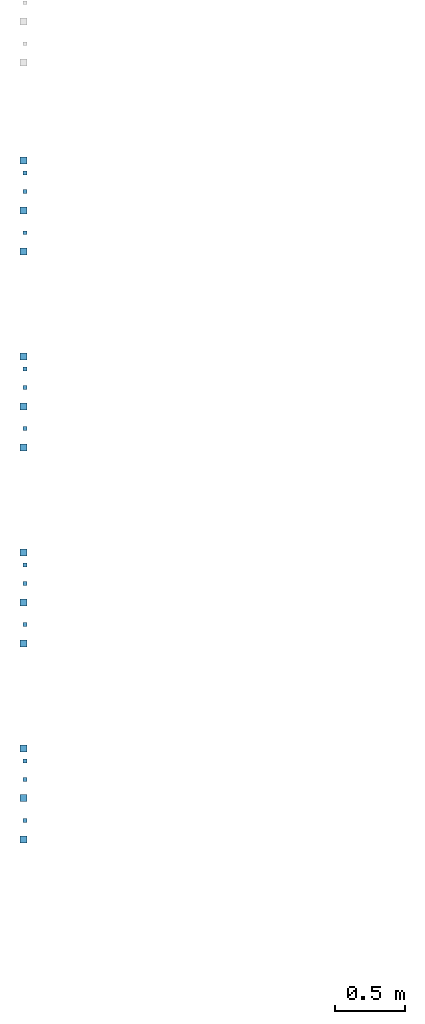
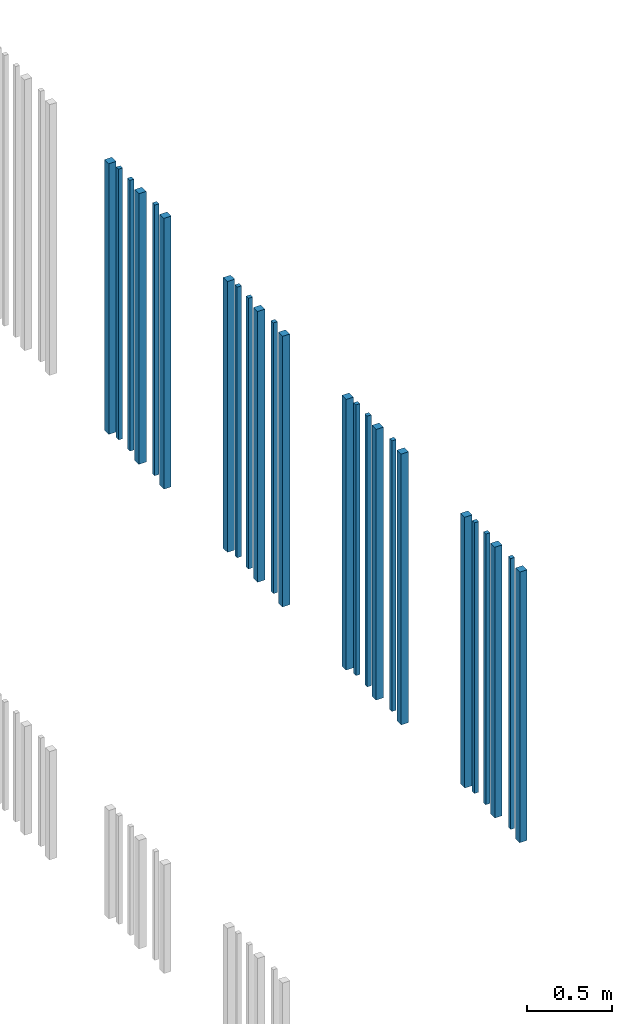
# One storey, part 20 of 124: 24 walls.
"""IFC2X3 building model written with IfcOpenShell, lengths in millimetres."""

from ifc_helpers import new_model, entity, si_unit, converted_unit, derived_unit, money_unit, direction, frame, origin_with_axes, place, context, subcontext, project, spatial, faceted_brep, material, type_object, element, save


model = new_model("IFC2X3")

# Units and contexts
model_context = context("Model", 3, precision=1e-05, world=origin_with_axes(), true_north=direction((0.0, 1.0)))
body_context = subcontext(model_context, "Body", "Model", "MODEL_VIEW")
ifc_project = project(units=[si_unit("LENGTHUNIT", "METRE", prefix="MILLI"), si_unit("AREAUNIT", "SQUARE_METRE"), si_unit("VOLUMEUNIT", "CUBIC_METRE"), converted_unit("PLANEANGLEUNIT", "DEGREE", entity("IfcPlaneAngleMeasure", 0.0174532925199), si_unit("PLANEANGLEUNIT", "RADIAN"), dimensions=[0, 0, 0, 0, 0, 0, 0]), si_unit("SOLIDANGLEUNIT", "STERADIAN"), money_unit("EUR"), converted_unit("TIMEUNIT", "Year", entity("IfcTimeMeasure", 31556926.0), si_unit("TIMEUNIT", "SECOND"), dimensions=[0, 0, 1, 0, 0, 0, 0]), si_unit("MASSUNIT", "GRAM", prefix="KILO"), si_unit("THERMODYNAMICTEMPERATUREUNIT", "DEGREE_CELSIUS"), si_unit("LUMINOUSINTENSITYUNIT", "LUMEN"), si_unit("ENERGYUNIT", "JOULE", prefix="MEGA"), derived_unit("THERMALCONDUCTANCEUNIT", [(si_unit("POWERUNIT", "WATT"), 1), (si_unit("LENGTHUNIT", "METRE"), -1), (si_unit("THERMODYNAMICTEMPERATUREUNIT", "KELVIN"), -1)]), derived_unit("SPECIFICHEATCAPACITYUNIT", [(si_unit("ENERGYUNIT", "JOULE"), 1), (si_unit("MASSUNIT", "GRAM", prefix="KILO"), -1), (si_unit("THERMODYNAMICTEMPERATUREUNIT", "KELVIN"), -1)]), derived_unit("MASSDENSITYUNIT", [(si_unit("MASSUNIT", "GRAM", prefix="KILO"), 1), (si_unit("VOLUMEUNIT", "CUBIC_METRE"), -1)])], contexts=[model_context])

# Site, building, storey
site_placement = place(None, origin_with_axes())
site = spatial("IfcSite", under=ifc_project, at=site_placement, Name="Site", CompositionType="ELEMENT")
building_placement = place(site_placement, origin_with_axes())
building = spatial("IfcBuilding", under=site, at=building_placement, Name="Building", CompositionType="ELEMENT")
storey_placement = place(building_placement, frame((0.0, 0.0, -1615.0), z_axis=(0.0, 0.0, 1.0), x_axis=(1.0, 0.0, 0.0)))
storey = spatial("IfcBuildingStorey", under=building, at=storey_placement, Name="0  korrus", CompositionType="ELEMENT", Elevation=-1615.0)

# Walls
ifc_material = material(Name="Site specified")
wall_type = type_object("IfcWallType", Name="Puitfassaadi ribistik", PredefinedType="NOTDEFINED")
for number, where, z_axis, x_axis, name in (
    (1, (122387.999965, 59365.0238283, 9530.0), (0.0, 0.0, 1.0), (-5.16795809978e-08, 1.0, 0.0), "Site specified"),
    (2, (122387.999984, 59009.018195, 9530.0), (0.0, 0.0, 1.0), (-5.16795809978e-08, 1.0, 0.0), "Site specified"),
):
    element("IfcWall", number, at=place(storey_placement, frame(where, z_axis=z_axis, x_axis=x_axis)), inside=storey, type_object=wall_type, material=ifc_material, Name=name, context=body_context, shape_type="Brep", body=[
        faceted_brep([(25.0, 25.0, 1950.0), (25.0, 25.0, 0.0), (-25.0, 25.0, 0.0), (-25.0, 25.0, 1950.0), (25.0, -25.0, 1950.0), (25.0, -25.0, 0.0), (-25.0, -25.0, 0.0), (-25.0, -25.0, 1950.0)], [[[0, 1, 2, 3]], [[4, 5, 1, 0]], [[2, 1, 5, 6]], [[3, 2, 6, 7]], [[4, 0, 3, 7]], [[7, 6, 5, 4]]]),
    ])
wall_1_placement = place(storey_placement, frame((122398.99997, 59276.0206584, 9530.0), z_axis=(0.0, 0.0, 1.0), x_axis=(-5.16795809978e-08, 1.0, 0.0)))
element("IfcWall", 3, at=wall_1_placement, inside=storey, type_object=wall_type, material=ifc_material, Name="Site specified", context=body_context, shape_type="Brep", body=[
    faceted_brep([(14.0, 14.0, 1950.0), (14.0, 14.0, 0.0), (-14.0, 14.0, 0.0), (-14.0, 14.0, 1950.0), (14.0, -14.0, 1950.0), (14.0, -14.0, 0.0), (-14.0, -14.0, 0.0), (-14.0, -14.0, 1950.0)], [[[0, 1, 2, 3]], [[4, 5, 1, 0]], [[2, 1, 5, 6]], [[3, 2, 6, 7]], [[4, 0, 3, 7]], [[7, 6, 5, 4]]]),
])
wall_2_placement = place(storey_placement, frame((122387.999999, 58715.0181971, 9530.0), z_axis=(0.0, 0.0, 1.0), x_axis=(-5.16795809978e-08, 1.0, 0.0)))
element("IfcWall", 4, at=wall_2_placement, inside=storey, type_object=wall_type, material=ifc_material, Name="Site specified", context=body_context, shape_type="Brep", body=[
    faceted_brep([(25.0, 25.0, 1950.0), (25.0, 25.0, 0.0), (-25.0, 25.0, 0.0), (-25.0, 25.0, 1950.0), (25.0, -25.0, 1950.0), (25.0, -25.0, 0.0), (-25.0, -25.0, 0.0), (-25.0, -25.0, 1950.0)], [[[0, 1, 2, 3]], [[4, 5, 1, 0]], [[2, 1, 5, 6]], [[3, 2, 6, 7]], [[4, 0, 3, 7]], [[7, 6, 5, 4]]]),
])
for number, where, z_axis, x_axis, name in (
    (5, (122398.999977, 59143.0206593, 9530.0), (0.0, 0.0, 1.0), (-5.16795809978e-08, 1.0, 0.0), "Site specified"),
    (6, (122398.999992, 58850.0206882, 9530.0), (0.0, 0.0, 1.0), (-5.16795809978e-08, 1.0, 0.0), "Site specified"),
):
    element("IfcWall", number, at=place(storey_placement, frame(where, z_axis=z_axis, x_axis=x_axis)), inside=storey, type_object=wall_type, material=ifc_material, Name=name, context=body_context, shape_type="Brep", body=[
        faceted_brep([(14.0, 14.0, 1950.0), (14.0, 14.0, 0.0), (-14.0, 14.0, 0.0), (-14.0, 14.0, 1950.0), (14.0, -14.0, 1950.0), (14.0, -14.0, 0.0), (-14.0, -14.0, 0.0), (-14.0, -14.0, 1950.0)], [[[0, 1, 2, 3]], [[4, 5, 1, 0]], [[2, 1, 5, 6]], [[3, 2, 6, 7]], [[4, 0, 3, 7]], [[7, 6, 5, 4]]]),
    ])
for number, where, z_axis, x_axis, name in (
    (7, (122387.999966, 57965.0238283, 9530.0), (0.0, 0.0, 1.0), (-5.16795809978e-08, 1.0, 0.0), "Site specified"),
    (8, (122387.999984, 57609.018195, 9530.0), (0.0, 0.0, 1.0), (-5.16795809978e-08, 1.0, 0.0), "Site specified"),
):
    element("IfcWall", number, at=place(storey_placement, frame(where, z_axis=z_axis, x_axis=x_axis)), inside=storey, type_object=wall_type, material=ifc_material, Name=name, context=body_context, shape_type="Brep", body=[
        faceted_brep([(25.0, 25.0, 1950.0), (25.0, 25.0, 0.0), (-25.0, 25.0, 0.0), (-25.0, 25.0, 1950.0), (25.0, -25.0, 1950.0), (25.0, -25.0, 0.0), (-25.0, -25.0, 0.0), (-25.0, -25.0, 1950.0)], [[[0, 1, 2, 3]], [[4, 5, 1, 0]], [[2, 1, 5, 6]], [[3, 2, 6, 7]], [[4, 0, 3, 7]], [[7, 6, 5, 4]]]),
    ])
wall_3_placement = place(storey_placement, frame((122398.999977, 57743.0206593, 9530.0), z_axis=(0.0, 0.0, 1.0), x_axis=(-5.16795809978e-08, 1.0, 0.0)))
element("IfcWall", 9, at=wall_3_placement, inside=storey, type_object=wall_type, material=ifc_material, Name="Site specified", context=body_context, shape_type="Brep", body=[
    faceted_brep([(14.0, 14.0, 1950.0), (14.0, 14.0, 0.0), (-14.0, 14.0, 0.0), (-14.0, 14.0, 1950.0), (14.0, -14.0, 1950.0), (14.0, -14.0, 0.0), (-14.0, -14.0, 0.0), (-14.0, -14.0, 1950.0)], [[[0, 1, 2, 3]], [[4, 5, 1, 0]], [[2, 1, 5, 6]], [[3, 2, 6, 7]], [[4, 0, 3, 7]], [[7, 6, 5, 4]]]),
])
wall_4_placement = place(storey_placement, frame((122387.999999, 57315.0181971, 9530.0), z_axis=(0.0, 0.0, 1.0), x_axis=(-5.16795809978e-08, 1.0, 0.0)))
element("IfcWall", 10, at=wall_4_placement, inside=storey, type_object=wall_type, material=ifc_material, Name="Site specified", context=body_context, shape_type="Brep", body=[
    faceted_brep([(25.0, 25.0, 1950.0), (25.0, 25.0, 0.0), (-25.0, 25.0, 0.0), (-25.0, 25.0, 1950.0), (25.0, -25.0, 1950.0), (25.0, -25.0, 0.0), (-25.0, -25.0, 0.0), (-25.0, -25.0, 1950.0)], [[[0, 1, 2, 3]], [[4, 5, 1, 0]], [[2, 1, 5, 6]], [[3, 2, 6, 7]], [[4, 0, 3, 7]], [[7, 6, 5, 4]]]),
])
for number, where, z_axis, x_axis, name in (
    (11, (122398.999992, 57450.0206882, 9530.0), (0.0, 0.0, 1.0), (-5.16795809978e-08, 1.0, 0.0), "Site specified"),
    (12, (122398.99997, 57876.0206584, 9530.0), (0.0, 0.0, 1.0), (-5.16795809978e-08, 1.0, 0.0), "Site specified"),
):
    element("IfcWall", number, at=place(storey_placement, frame(where, z_axis=z_axis, x_axis=x_axis)), inside=storey, type_object=wall_type, material=ifc_material, Name=name, context=body_context, shape_type="Brep", body=[
        faceted_brep([(14.0, 14.0, 1950.0), (14.0, 14.0, 0.0), (-14.0, 14.0, 0.0), (-14.0, 14.0, 1950.0), (14.0, -14.0, 1950.0), (14.0, -14.0, 0.0), (-14.0, -14.0, 0.0), (-14.0, -14.0, 1950.0)], [[[0, 1, 2, 3]], [[4, 5, 1, 0]], [[2, 1, 5, 6]], [[3, 2, 6, 7]], [[4, 0, 3, 7]], [[7, 6, 5, 4]]]),
    ])
wall_5_placement = place(storey_placement, frame((122387.999999, 60115.0181971, 9530.0), z_axis=(0.0, 0.0, 1.0), x_axis=(-5.16795809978e-08, 1.0, 0.0)))
element("IfcWall", 13, at=wall_5_placement, inside=storey, type_object=wall_type, material=ifc_material, Name="Site specified", context=body_context, shape_type="Brep", body=[
    faceted_brep([(25.0, 25.0, 1950.0), (25.0, 25.0, 0.0), (-25.0, 25.0, 0.0), (-25.0, 25.0, 1950.0), (25.0, -25.0, 1950.0), (25.0, -25.0, 0.0), (-25.0, -25.0, 0.0), (-25.0, -25.0, 1950.0)], [[[0, 1, 2, 3]], [[4, 5, 1, 0]], [[2, 1, 5, 6]], [[3, 2, 6, 7]], [[4, 0, 3, 7]], [[7, 6, 5, 4]]]),
])
for number, where, z_axis, x_axis, name in (
    (14, (122398.999992, 60250.0206882, 9530.0), (0.0, 0.0, 1.0), (-5.16795809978e-08, 1.0, 0.0), "Site specified"),
    (15, (122398.99997, 60676.0206584, 9530.0), (0.0, 0.0, 1.0), (-5.16795809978e-08, 1.0, 0.0), "Site specified"),
):
    element("IfcWall", number, at=place(storey_placement, frame(where, z_axis=z_axis, x_axis=x_axis)), inside=storey, type_object=wall_type, material=ifc_material, Name=name, context=body_context, shape_type="Brep", body=[
        faceted_brep([(14.0, 14.0, 1950.0), (14.0, 14.0, 0.0), (-14.0, 14.0, 0.0), (-14.0, 14.0, 1950.0), (14.0, -14.0, 1950.0), (14.0, -14.0, 0.0), (-14.0, -14.0, 0.0), (-14.0, -14.0, 1950.0)], [[[0, 1, 2, 3]], [[4, 5, 1, 0]], [[2, 1, 5, 6]], [[3, 2, 6, 7]], [[4, 0, 3, 7]], [[7, 6, 5, 4]]]),
    ])
wall_6_placement = place(storey_placement, frame((122387.999965, 60765.0238283, 9530.0), z_axis=(0.0, 0.0, 1.0), x_axis=(-5.16795809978e-08, 1.0, 0.0)))
element("IfcWall", 16, at=wall_6_placement, inside=storey, type_object=wall_type, material=ifc_material, Name="Site specified", context=body_context, shape_type="Brep", body=[
    faceted_brep([(25.0, 25.0, 1950.0), (25.0, 25.0, 0.0), (-25.0, 25.0, 0.0), (-25.0, 25.0, 1950.0), (25.0, -25.0, 1950.0), (25.0, -25.0, 0.0), (-25.0, -25.0, 0.0), (-25.0, -25.0, 1950.0)], [[[0, 1, 2, 3]], [[4, 5, 1, 0]], [[2, 1, 5, 6]], [[3, 2, 6, 7]], [[4, 0, 3, 7]], [[7, 6, 5, 4]]]),
])
wall_7_placement = place(storey_placement, frame((122398.999977, 60543.0206593, 9530.0), z_axis=(0.0, 0.0, 1.0), x_axis=(-5.16795809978e-08, 1.0, 0.0)))
element("IfcWall", 17, at=wall_7_placement, inside=storey, type_object=wall_type, material=ifc_material, Name="Site specified", context=body_context, shape_type="Brep", body=[
    faceted_brep([(14.0, 14.0, 1950.0), (14.0, 14.0, 0.0), (-14.0, 14.0, 0.0), (-14.0, 14.0, 1950.0), (14.0, -14.0, 1950.0), (14.0, -14.0, 0.0), (-14.0, -14.0, 0.0), (-14.0, -14.0, 1950.0)], [[[0, 1, 2, 3]], [[4, 5, 1, 0]], [[2, 1, 5, 6]], [[3, 2, 6, 7]], [[4, 0, 3, 7]], [[7, 6, 5, 4]]]),
])
for number, where, z_axis, x_axis, name in (
    (18, (122387.999984, 60409.018195, 9530.0), (0.0, 0.0, 1.0), (-5.16795809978e-08, 1.0, 0.0), "Site specified"),
    (19, (122387.999984, 61809.018524, 9530.0), (0.0, 0.0, 1.0), (-5.16795809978e-08, 1.0, 0.0), "Site specified"),
    (20, (122387.999999, 61515.0185262, 9530.0), (0.0, 0.0, 1.0), (-5.16795809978e-08, 1.0, 0.0), "Site specified"),
):
    element("IfcWall", number, at=place(storey_placement, frame(where, z_axis=z_axis, x_axis=x_axis)), inside=storey, type_object=wall_type, material=ifc_material, Name=name, context=body_context, shape_type="Brep", body=[
        faceted_brep([(25.0, 25.0, 1950.0), (25.0, 25.0, 0.0), (-25.0, 25.0, 0.0), (-25.0, 25.0, 1950.0), (25.0, -25.0, 1950.0), (25.0, -25.0, 0.0), (-25.0, -25.0, 0.0), (-25.0, -25.0, 1950.0)], [[[0, 1, 2, 3]], [[4, 5, 1, 0]], [[2, 1, 5, 6]], [[3, 2, 6, 7]], [[4, 0, 3, 7]], [[7, 6, 5, 4]]]),
    ])
for number, where, z_axis, x_axis, name in (
    (21, (122398.999992, 61650.0210172, 9530.0), (0.0, 0.0, 1.0), (-5.16795809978e-08, 1.0, 0.0), "Site specified"),
    (22, (122398.99997, 62076.0209875, 9530.0), (0.0, 0.0, 1.0), (-5.16795809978e-08, 1.0, 0.0), "Site specified"),
):
    element("IfcWall", number, at=place(storey_placement, frame(where, z_axis=z_axis, x_axis=x_axis)), inside=storey, type_object=wall_type, material=ifc_material, Name=name, context=body_context, shape_type="Brep", body=[
        faceted_brep([(14.0, 14.0, 1950.0), (14.0, 14.0, 0.0), (-14.0, 14.0, 0.0), (-14.0, 14.0, 1950.0), (14.0, -14.0, 1950.0), (14.0, -14.0, 0.0), (-14.0, -14.0, 0.0), (-14.0, -14.0, 1950.0)], [[[0, 1, 2, 3]], [[4, 5, 1, 0]], [[2, 1, 5, 6]], [[3, 2, 6, 7]], [[4, 0, 3, 7]], [[7, 6, 5, 4]]]),
    ])
wall_8_placement = place(storey_placement, frame((122387.999965, 62165.0241573, 9530.0), z_axis=(0.0, 0.0, 1.0), x_axis=(-5.16795809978e-08, 1.0, 0.0)))
element("IfcWall", 23, at=wall_8_placement, inside=storey, type_object=wall_type, material=ifc_material, Name="Site specified", context=body_context, shape_type="Brep", body=[
    faceted_brep([(25.0, 25.0, 1950.0), (25.0, 25.0, 0.0), (-25.0, 25.0, 0.0), (-25.0, 25.0, 1950.0), (25.0, -25.0, 1950.0), (25.0, -25.0, 0.0), (-25.0, -25.0, 0.0), (-25.0, -25.0, 1950.0)], [[[0, 1, 2, 3]], [[4, 5, 1, 0]], [[2, 1, 5, 6]], [[3, 2, 6, 7]], [[4, 0, 3, 7]], [[7, 6, 5, 4]]]),
])
wall_9_placement = place(storey_placement, frame((122398.999977, 61943.0209883, 9530.0), z_axis=(0.0, 0.0, 1.0), x_axis=(-5.16795809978e-08, 1.0, 0.0)))
element("IfcWall", 24, at=wall_9_placement, inside=storey, type_object=wall_type, material=ifc_material, Name="Site specified", context=body_context, shape_type="Brep", body=[
    faceted_brep([(14.0, 14.0, 1950.0), (14.0, 14.0, 0.0), (-14.0, 14.0, 0.0), (-14.0, 14.0, 1950.0), (14.0, -14.0, 1950.0), (14.0, -14.0, 0.0), (-14.0, -14.0, 0.0), (-14.0, -14.0, 1950.0)], [[[0, 1, 2, 3]], [[4, 5, 1, 0]], [[2, 1, 5, 6]], [[3, 2, 6, 7]], [[4, 0, 3, 7]], [[7, 6, 5, 4]]]),
])

save(model, "model.ifc")
